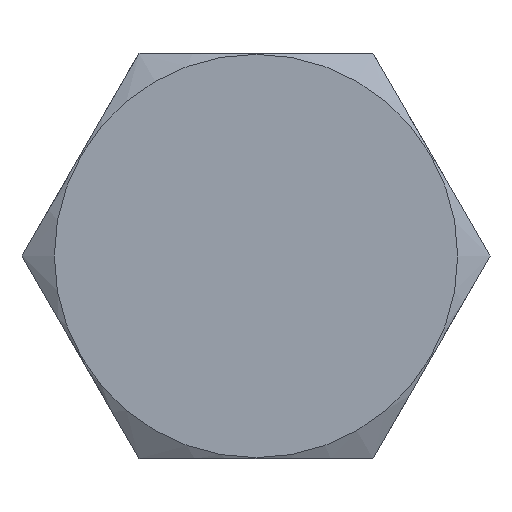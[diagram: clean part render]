
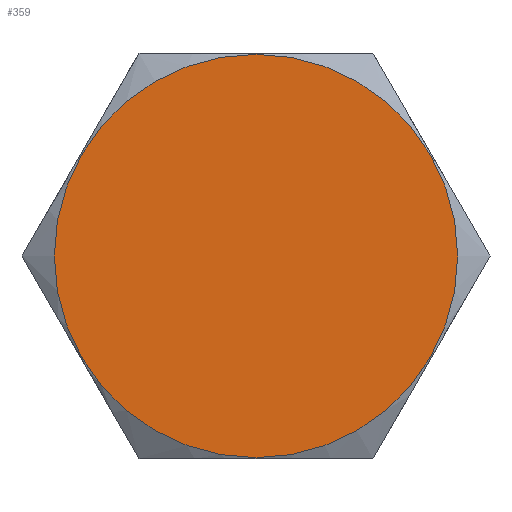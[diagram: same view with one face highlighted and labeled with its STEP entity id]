
A CAD part, front view. The second image highlights one B-rep face of the part: STEP entity #359.
In plain terms, the highlighted planar face has unit normal (0, -1, 0).
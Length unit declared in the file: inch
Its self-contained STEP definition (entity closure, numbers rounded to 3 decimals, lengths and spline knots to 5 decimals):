
#52=PLANE('',#409);
#108=FACE_OUTER_BOUND('',#131,.T.);
#131=EDGE_LOOP('',(#329));
#148=CIRCLE('',#408,0.4975);
#183=VERTEX_POINT('',#680);
#233=EDGE_CURVE('',#183,#183,#148,.T.);
#329=ORIENTED_EDGE('',*,*,#233,.F.);
#359=ADVANCED_FACE('',(#108),#52,.T.);
#408=AXIS2_PLACEMENT_3D('',#681,#494,#495);
#409=AXIS2_PLACEMENT_3D('',#683,#497,#498);
#494=DIRECTION('center_axis',(0.,1.,0.));
#495=DIRECTION('ref_axis',(0.,0.,1.));
#497=DIRECTION('center_axis',(0.,-1.,0.));
#498=DIRECTION('ref_axis',(0.,0.,-1.));
#680=CARTESIAN_POINT('',(0.,0.,-0.4975));
#681=CARTESIAN_POINT('Origin',(0.,0.,0.));
#683=CARTESIAN_POINT('Origin',(0.,0.,0.));
